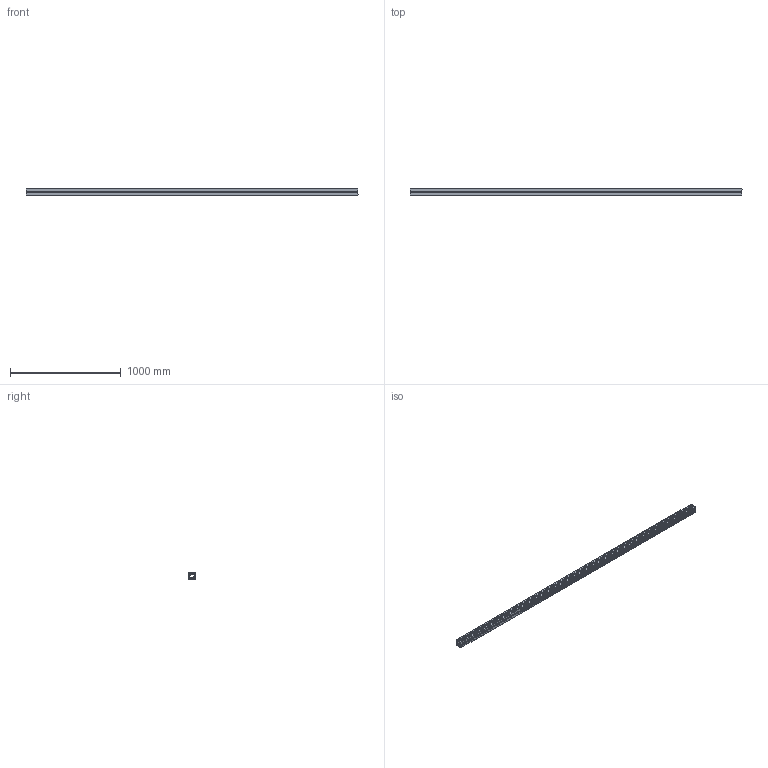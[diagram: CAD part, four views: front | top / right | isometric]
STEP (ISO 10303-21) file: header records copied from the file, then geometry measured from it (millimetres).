
FILE_DESCRIPTION(/* description */ (''),/* implementation_level */ '2;1');
FILE_NAME(/* name */ 'Pos100-Profiel 60x60-Aluminium-2st',/* time_stamp */ '2024-08-06T11:49:44+02:00',/* author */ (''),/* organization */ (''),/* preprocessor_version */ 'ST-DEVELOPER v16.5',/* originating_system */ 'HiCAD 2024 2901.2 Build 361',/* authorisation */ '');
FILE_SCHEMA (('AUTOMOTIVE_DESIGN { 1 0 10303 214 1 1 1 1 }'));
Length unit declared in the file: millimetre
Products named in the file (1): Pos100-Profiel 60x60-Aluminium-2st
Bounding box: 3000 x 60 x 60 mm (x, y, z)
Volume: 2861415 mm3; surface area: 2616355 mm2
Topology: 1 solids, 1 shells, 92 faces, 272 edges, 182 vertices
Faces by surface type: plane 58, cylinder 34
Full cylindrical faces by diameter (mm): 8 x2, 8.5 x4
Entity records: 5718 total; most frequent: CARTESIAN_POINT 536, PRESENTATION_STYLE_ASSIGNMENT 529, COLOUR_RGB 529, DRAUGHTING_PRE_DEFINED_CURVE_FONT 528, CURVE_STYLE 528, OVER_RIDING_STYLED_ITEM 528, ORIENTED_EDGE 528, DIRECTION 516
